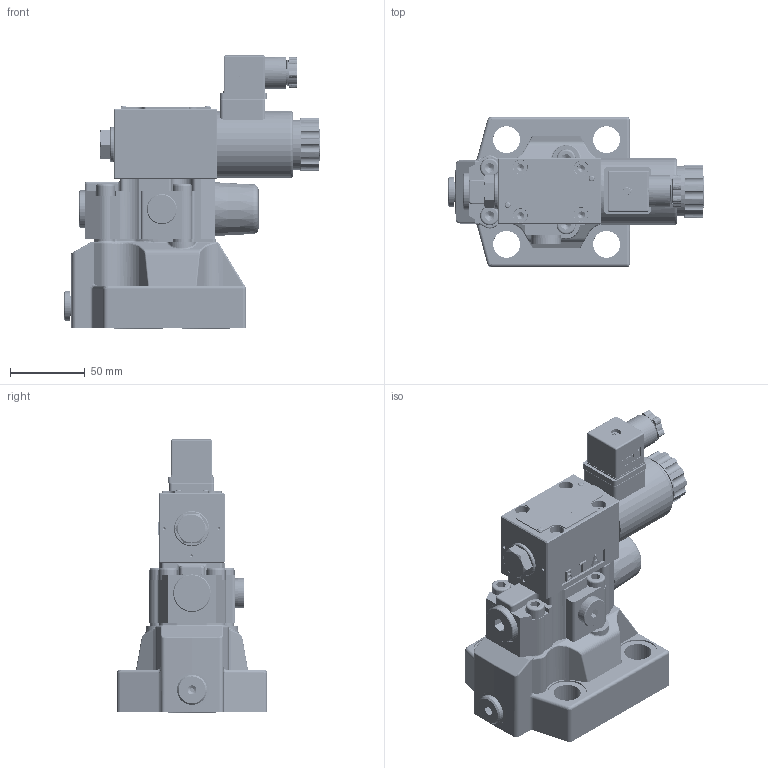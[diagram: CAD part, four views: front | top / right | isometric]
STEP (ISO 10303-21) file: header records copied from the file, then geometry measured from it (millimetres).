
FILE_DESCRIPTION(/* description */ (''),/* implementation_level */ '2;1');
FILE_NAME(/* name */ 'DBW20-5XJ先导式电磁溢流阀.prt.stp',/* time_stamp */ '2022-03-30T20:09:37+08:00',/* author */ (''),/* organization */ (''),/* preprocessor_version */ 'ST-DEVELOPER v16.7',/* originating_system */ 'SIEMENS PLM Software NX 12.0',/* authorisation */ '');
FILE_SCHEMA (('AUTOMOTIVE_DESIGN { 1 0 10303 214 3 1 1 1 }'));
Products named in the file (1): DBW20-5XJ先导式电磁溢流阀
Bounding box: 171.2 x 100 x 182.13 mm (x, y, z)
Volume: 288726.6 mm3; surface area: 194432.5 mm2
Topology: 87 solids, 97 shells, 3284 faces, 8698 edges, 5710 vertices
Faces by surface type: plane 2174, cylinder 658, bspline 151, cone 139, torus 75, extrusion 75, sphere 12
Full cylindrical faces by diameter (mm): 0.5 x2, 1.65 x3, 1.8 x4, 2 x12, 2.125 x3, 2.2 x2, 2.5 x5, 2.8 x3, 3 x6, 4 x1, 4.2 x12, 4.3 x48, 4.4 x1, 4.5 x3, 5 x6, 5.3 x4, 5.32 x1, 5.5 x2, 6 x4, 6.2 x1, 7 x12, 7.2 x1, 8 x2, 8.4 x4, 8.7 x1, 9 x1, 9.4 x4, 9.5 x1, 11 x2, 11.5 x6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
Entity records: 223135 total; most frequent: CARTESIAN_POINT 144365, ORIENTED_EDGE 15766, DIRECTION 14176, EDGE_CURVE 7883, VECTOR 5760, LINE 5685, VERTEX_POINT 5321, AXIS2_PLACEMENT_3D 4208
